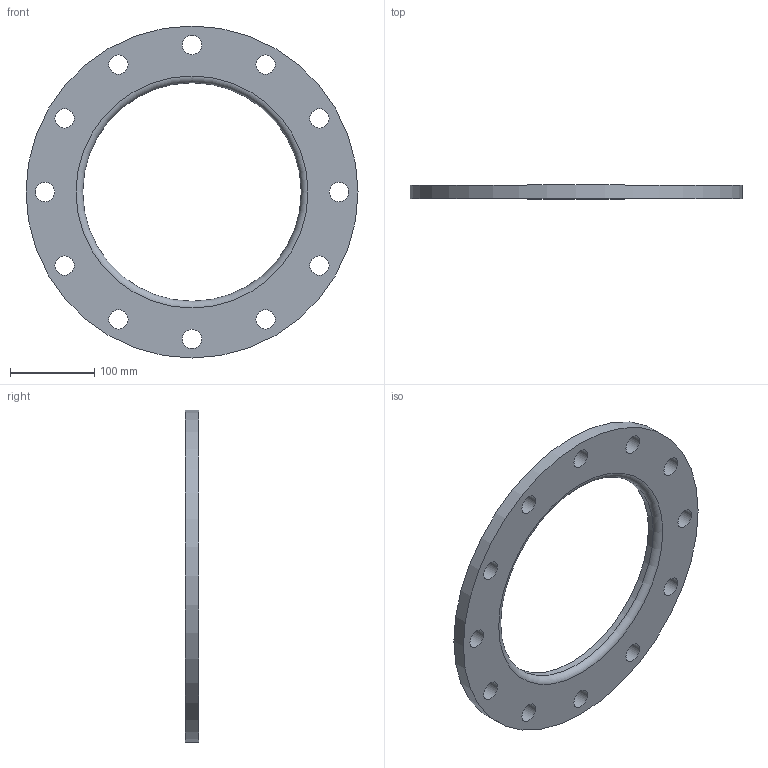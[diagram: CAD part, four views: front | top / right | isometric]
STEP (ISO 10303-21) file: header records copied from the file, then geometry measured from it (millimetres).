
FILE_DESCRIPTION(/* description */ (''),/* implementation_level */ '2;1');
FILE_NAME(/* name */ 'Z:\Geberit\Export\NewStep\371745.stp',/* time_stamp */ '2014-04-02T08:05:48+02:00',/* author */ ('nelson'),/* organization */ (''),/* preprocessor_version */ 'ST-DEVELOPER v15.2',/* originating_system */ 'Autodesk Inventor 2014',/* authorisation */ '');
FILE_SCHEMA (('AUTOMOTIVE_DESIGN { 1 0 10303 214 3 1 1 }'));
Length unit declared in the file: millimetre
Products named in the file (1): 371745
Bounding box: 395 x 16 x 395 mm (x, y, z)
Volume: 1020037.2 mm3; surface area: 172947.2 mm2
Topology: 1 solids, 1 shells, 17 faces, 44 edges, 29 vertices
Faces by surface type: cylinder 14, plane 2, torus 1
Full cylindrical faces by diameter (mm): 23 x12, 260 x1, 395 x1
Entity records: 537 total; most frequent: DIRECTION 94, CARTESIAN_POINT 76, EDGE_LOOP 58, ORIENTED_EDGE 58, AXIS2_PLACEMENT_3D 47, FACE_BOUND 42, CIRCLE 29, VERTEX_POINT 29
